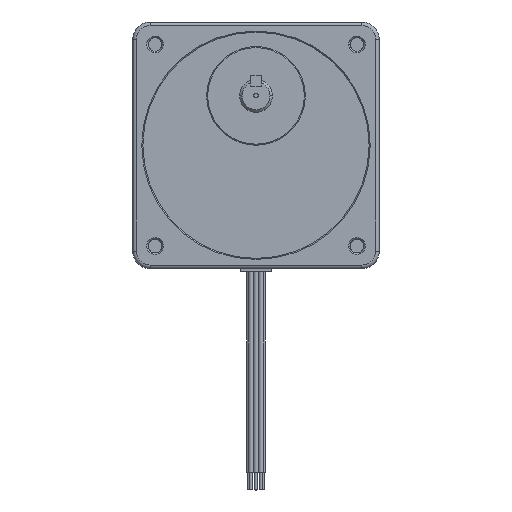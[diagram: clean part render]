
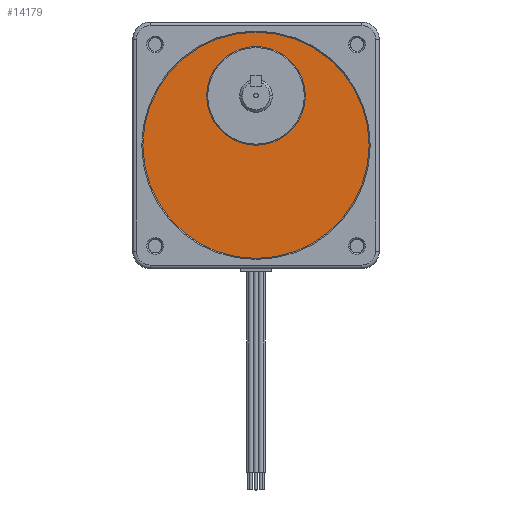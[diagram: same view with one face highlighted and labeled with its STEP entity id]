
A CAD part, top view. The second image highlights one B-rep face of the part: STEP entity #14179.
In plain terms, the highlighted planar face has unit normal (0, 0, 1).
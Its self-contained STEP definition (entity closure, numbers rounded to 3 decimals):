
#1936 = FACE_BOUND ( 'NONE', #14250, .T. ) ;
#1938 = AXIS2_PLACEMENT_3D ( 'NONE', #1941, #2021, #2020 ) ;
#1941 = CARTESIAN_POINT ( 'NONE',  ( 0., 0., 41.012 ) ) ;
#1953 = FACE_OUTER_BOUND ( 'NONE', #14185, .T. ) ;
#1982 = PLANE ( 'NONE',  #1938 ) ;
#2020 = DIRECTION ( 'NONE',  ( 1., 0., 0. ) ) ;
#2021 = DIRECTION ( 'NONE',  ( 0., 0., 1. ) ) ;
#2197 = DIRECTION ( 'NONE',  ( 1., 0., 0. ) ) ;
#2198 = DIRECTION ( 'NONE',  ( 0., 0., 1. ) ) ;
#2199 = CARTESIAN_POINT ( 'NONE',  ( 0., 0., 41.012 ) ) ;
#2200 = AXIS2_PLACEMENT_3D ( 'NONE', #2199, #2198, #2197 ) ;
#2209 = CIRCLE ( 'NONE', #2200, 41.275 ) ;
#2602 = CARTESIAN_POINT ( 'NONE',  ( -41.275, 0., 41.012 ) ) ;
#3806 = CIRCLE ( 'NONE', #3860, 17.996 ) ;
#3857 = DIRECTION ( 'NONE',  ( 1., 0., 0. ) ) ;
#3858 = DIRECTION ( 'NONE',  ( 0., 0., 1. ) ) ;
#3859 = CARTESIAN_POINT ( 'NONE',  ( 0., 18.009, 41.012 ) ) ;
#3860 = AXIS2_PLACEMENT_3D ( 'NONE', #3859, #3858, #3857 ) ;
#5654 = CARTESIAN_POINT ( 'NONE',  ( 17.996, 18.009, 41.012 ) ) ;
#6063 = CARTESIAN_POINT ( 'NONE',  ( -17.996, 18.009, 41.012 ) ) ;
#6760 = DIRECTION ( 'NONE',  ( 1., 0., 0. ) ) ;
#6761 = DIRECTION ( 'NONE',  ( 0., 0., 1. ) ) ;
#6762 = CARTESIAN_POINT ( 'NONE',  ( 0., 18.009, 41.012 ) ) ;
#6763 = AXIS2_PLACEMENT_3D ( 'NONE', #6762, #6761, #6760 ) ;
#6781 = CIRCLE ( 'NONE', #6763, 17.996 ) ;
#10427 = CARTESIAN_POINT ( 'NONE',  ( 41.275, 0., 41.012 ) ) ;
#12155 = CIRCLE ( 'NONE', #12205, 41.275 ) ;
#12167 = CARTESIAN_POINT ( 'NONE',  ( 0., 0., 41.012 ) ) ;
#12191 = DIRECTION ( 'NONE',  ( 1., 0., 0. ) ) ;
#12192 = DIRECTION ( 'NONE',  ( 0., 0., 1. ) ) ;
#12205 = AXIS2_PLACEMENT_3D ( 'NONE', #12167, #12192, #12191 ) ;
#14176 = ORIENTED_EDGE ( 'NONE', *, *, #17805, .T. ) ;
#14179 = ADVANCED_FACE ( 'NONE', ( #1953, #1936 ), #1982, .T. ) ;
#14185 = EDGE_LOOP ( 'NONE', ( #14240, #14176 ) ) ;
#14235 = EDGE_CURVE ( 'NONE', #15130, #15008, #2209, .T. ) ;
#14240 = ORIENTED_EDGE ( 'NONE', *, *, #14235, .T. ) ;
#14250 = EDGE_LOOP ( 'NONE', ( #18019, #18169 ) ) ;
#15008 = VERTEX_POINT ( 'NONE', #2602 ) ;
#15130 = VERTEX_POINT ( 'NONE', #10427 ) ;
#17805 = EDGE_CURVE ( 'NONE', #15008, #15130, #12155, .T. ) ;
#18017 = EDGE_CURVE ( 'NONE', #19547, #19465, #3806, .T. ) ;
#18019 = ORIENTED_EDGE ( 'NONE', *, *, #18017, .F. ) ;
#18169 = ORIENTED_EDGE ( 'NONE', *, *, #19772, .F. ) ;
#19465 = VERTEX_POINT ( 'NONE', #5654 ) ;
#19547 = VERTEX_POINT ( 'NONE', #6063 ) ;
#19772 = EDGE_CURVE ( 'NONE', #19465, #19547, #6781, .T. ) ;
